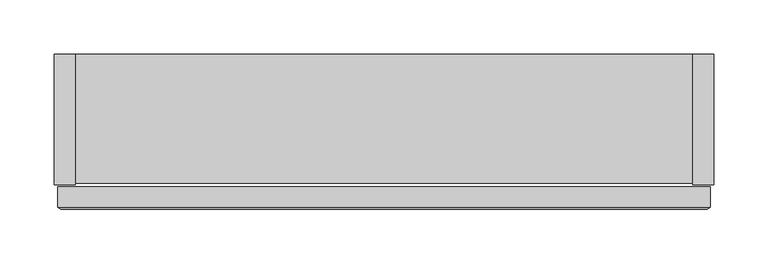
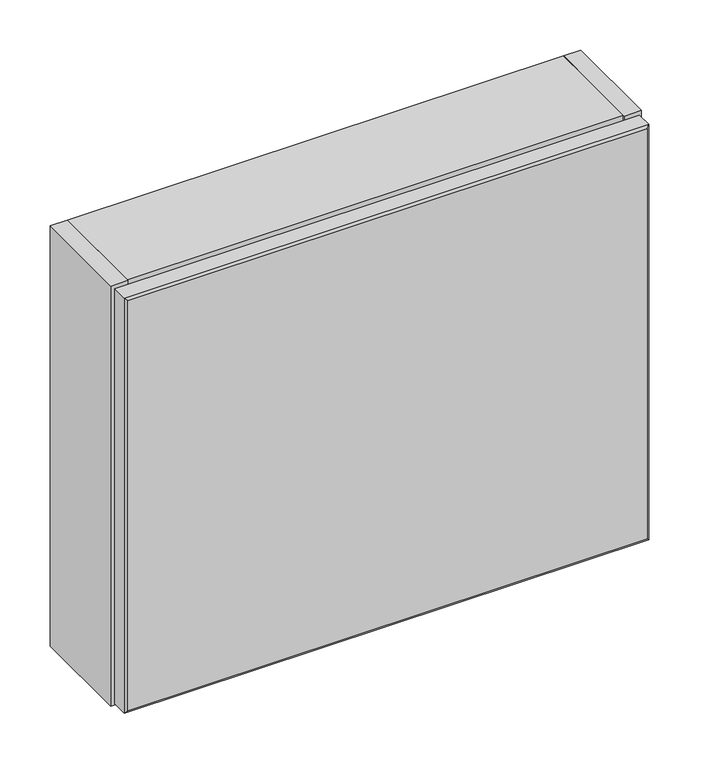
"""IFC4 building model written with IfcOpenShell, lengths in millimetres: furniture geometry."""

from ifc_helpers import new_model, si_unit, frame, origin, place, context, project, spatial, polyline, outline, extrude, faceted_brep, source, transform, mapped, element, save


def furniture_dbdca328(model_context):
    return source(origin(), model_context, "Body", "SolidModel", [
        extrude(outline(polyline([(303.9805048, 0.0), (323.5377049, 0.0), (323.5377049, -120.6509297), (303.9805048, -120.6509297), (303.9805048, 0.0)])), frame((0.0, 0.0, 1608.4351563), z_axis=(0.0, 0.0, 1.0), x_axis=(1.0, 0.0, 0.0)), (0.0, 0.0, 1.0), 510.8773437),
        extrude(outline(polyline([(-286.0622951, 0.0), (-266.4801283, 0.0), (-266.4801283, -120.6509297), (-286.0622951, -120.6509297), (-286.0622951, 0.0)])), frame((0.0, 0.0, 1608.4351563), z_axis=(0.0, 0.0, 1.0), x_axis=(1.0, 0.0, 0.0)), (0.0, 0.0, 1.0), 510.8773437),
        faceted_brep([(320.3627049, -122.7424751, 2116.1375), (-282.8872951, -122.7424751, 2116.1375), (-282.8872951, -141.5509531, 2116.1375), (320.3627049, -141.5509531, 2116.1375), (-282.8872951, -122.7424751, 1611.6101562), (320.3627049, -122.7424751, 1611.6101562), (320.3627049, -141.5509531, 1611.6101562), (-282.8872951, -141.5509531, 1611.6101562), (-279.7122951, -143.383, 2112.9625), (-279.7122951, -143.383, 1614.7851562), (317.1877049, -143.383, 1614.7851562), (317.1877049, -143.383, 2112.9625)], [[[0, 1, 2, 3]], [[4, 5, 6, 7]], [[1, 4, 7, 2]], [[8, 9, 10, 11]], [[5, 0, 3, 6]], [[1, 0, 5, 4]], [[7, 9, 8, 2]], [[9, 7, 6, 10]], [[10, 6, 3, 11]], [[2, 8, 11, 3]]]),
        extrude(outline(polyline([(-119.1270038, 2119.3125), (0.0, 2119.3125), (0.0, 1608.4351563), (-19.5571979, 1608.4351563), (-19.5571979, 2065.3375), (-119.1270038, 2065.3375), (-119.1270038, 2119.3125)])), frame((-266.4801283, 0.0, 0.0), z_axis=(1.0, 0.0, 0.0), x_axis=(0.0, 1.0, 0.0)), (0.0, 0.0, 1.0), 570.460633),
        extrude(outline(polyline([(-140.0122951, -117.5340037), (-266.4801283, -117.5340037), (-266.4801283, -19.5571979), (-140.0122951, -19.5571979), (-140.0122951, -117.5340037)])), frame((0.0, 0.0, 1630.3324962), z_axis=(0.0, 0.0, 1.0), x_axis=(1.0, 0.0, 0.0)), (0.0, 0.0, 1.0), 19.05),
        extrude(outline(polyline([(303.9805048, -117.5340037), (177.4877049, -117.5340037), (177.4877049, -19.5571979), (303.9805048, -19.5571979), (303.9805048, -117.5340037)])), frame((0.0, 0.0, 1630.3324962), z_axis=(0.0, 0.0, 1.0), x_axis=(1.0, 0.0, 0.0)), (0.0, 0.0, 1.0), 19.05),
    ])


if __name__ == "__main__":
    model = new_model("IFC4")
    model_context = context("Model", 3, world=origin())
    ifc_project = project(units=[si_unit("LENGTHUNIT", "METRE", prefix="MILLI")], contexts=[model_context])
    site = spatial("IfcSite", under=ifc_project)
    building = spatial("IfcBuilding", under=site)
    placement = place(None, origin())
    furniture_shape = furniture_dbdca328(model_context)
    element("IfcFurniture", 1, ObjectType="HermanMiller_Compass_TW324_PaperTowelCabinet : 20\"H x 6\"D x 24\"W Durawrap R", at=placement, inside=building, context=model_context, shape_type="MappedRepresentation", body=[
        mapped(furniture_shape, transform((0.0, 0.0, 0.0), x_axis=(1.0, 0.0, 0.0), y_axis=(0.0, 1.0, 0.0), z_axis=(0.0, 0.0, 1.0))),
    ])
    save(model, "model.ifc")
